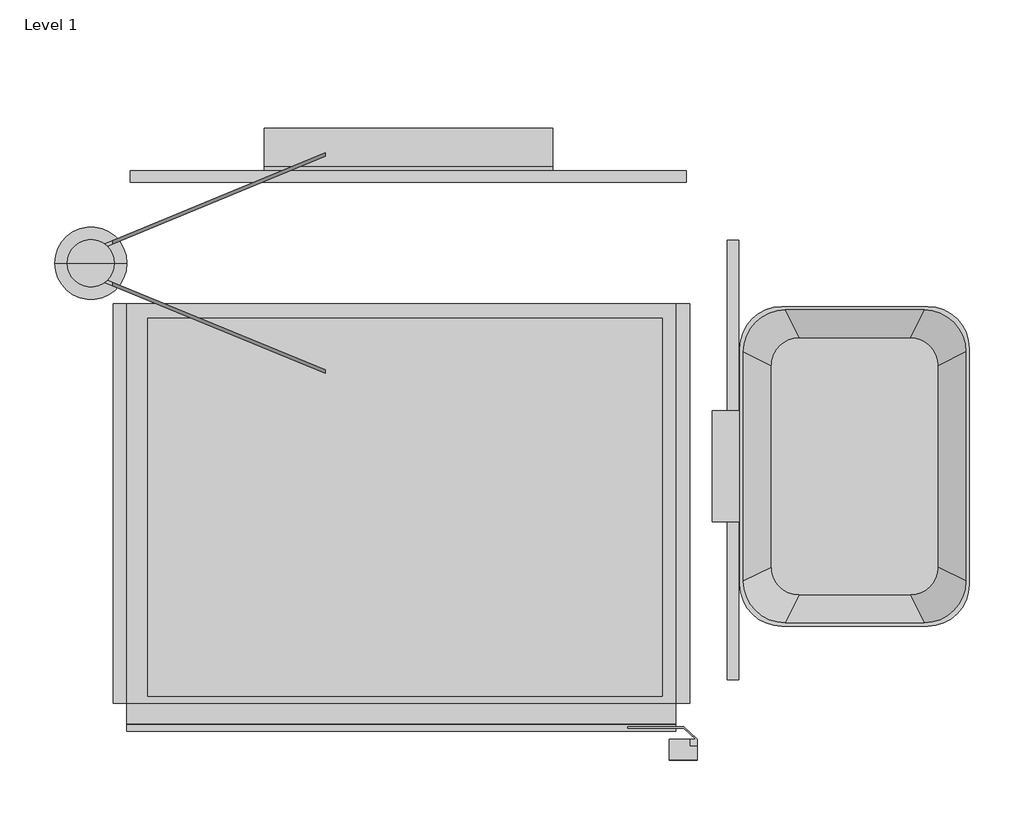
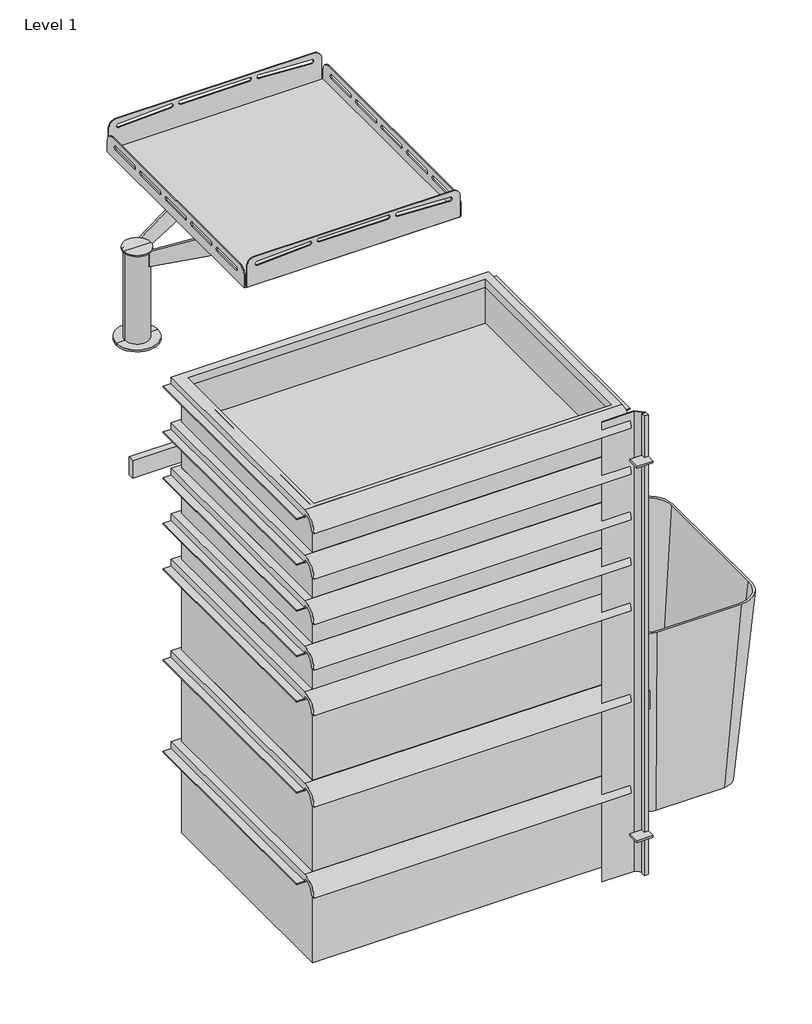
# One storey, incomplete: 13 furniture elements.
"""IFC4 building model written with IfcOpenShell, lengths in millimetres."""

from ifc_helpers import new_model, si_unit, origin, place, context, project, spatial, transform, mapped, element, save
from components import furniture_beea0197, furniture_07f965a8, furniture_5fc54427, furniture_b57faadb, furniture_c484342d, furniture_28e7d052, furniture_4659394c, furniture_b3912cd8, furniture_a84accc4, furniture_5e9628dd, furniture_27459807, corner_shelf_d9e9a92b, furniture_c669a2ec

model = new_model("IFC4")

# Units and contexts
model_context = context("Model", 3, world=origin())
ifc_project = project(units=[si_unit("LENGTHUNIT", "METRE", prefix="MILLI")], contexts=[model_context])

# Site, building, storey
site = spatial("IfcSite", under=ifc_project)
building = spatial("IfcBuilding", under=site)
storey = spatial("IfcBuildingStorey", under=building, Name="Level 1", Elevation=0.0)

# Furniture
placement = place(None, origin())
furniture_shape = furniture_beea0197(model_context)
element("IfcFurniture", 1, ObjectType="HermanMiller_Carts_CT728_WastebasketAndHolder : 12H x 8D x 11W", at=placement, inside=storey, context=model_context, shape_type="MappedRepresentation", body=[
    mapped(furniture_shape, transform((755.1843611, -161.740868, 0.0), x_axis=(1.0, 0.0, 0.0), y_axis=(0.0, 1.0, 0.0), z_axis=(0.0, 0.0, 1.0))),
])
furniture_2_shape = furniture_07f965a8(model_context)
element("IfcFurniture", 2, ObjectType="HermanMiller_Carts_CT501_Drawer : 3\"H x 15\"D x 20\"W", at=placement, inside=storey, context=model_context, shape_type="MappedRepresentation", body=[
    mapped(furniture_2_shape, transform((346.8865568, -354.417648, 0.0), x_axis=(1.0, 0.0, 0.0), y_axis=(0.0, 1.0, 0.0), z_axis=(0.0, 0.0, 1.0))),
])
furniture_3_shape = furniture_5fc54427(model_context)
element("IfcFurniture", 3, ObjectType="HermanMiller_Carts_CT501_Drawer : 3\"H x 15\"D x 20\"W", at=placement, inside=storey, context=model_context, shape_type="MappedRepresentation", body=[
    mapped(furniture_3_shape, transform((346.8865568, -354.417648, 0.0), x_axis=(1.0, 0.0, 0.0), y_axis=(0.0, 1.0, 0.0), z_axis=(0.0, 0.0, 1.0))),
])
furniture_4_shape = furniture_b57faadb(model_context)
element("IfcFurniture", 4, ObjectType="HermanMiller_Carts_CT501_Drawer : 3\"H x 15\"D x 20\"W", at=placement, inside=storey, context=model_context, shape_type="MappedRepresentation", body=[
    mapped(furniture_4_shape, transform((346.8865568, -354.417648, 0.0), x_axis=(1.0, 0.0, 0.0), y_axis=(0.0, 1.0, 0.0), z_axis=(0.0, 0.0, 1.0))),
])
furniture_5_shape = furniture_c484342d(model_context)
element("IfcFurniture", 5, ObjectType="HermanMiller_Carts_CT501_Drawer : 3\"H x 15\"D x 20\"W", at=placement, inside=storey, context=model_context, shape_type="MappedRepresentation", body=[
    mapped(furniture_5_shape, transform((346.8865568, -354.417648, 0.0), x_axis=(1.0, 0.0, 0.0), y_axis=(0.0, 1.0, 0.0), z_axis=(0.0, 0.0, 1.0))),
])
furniture_6_shape = furniture_28e7d052(model_context)
element("IfcFurniture", 6, ObjectType="HermanMiller_Carts_CT501_Drawer : 6\"H x 15\"D x 20\"W", at=placement, inside=storey, context=model_context, shape_type="MappedRepresentation", body=[
    mapped(furniture_6_shape, transform((346.8865568, -354.417648, 0.0), x_axis=(1.0, 0.0, 0.0), y_axis=(0.0, 1.0, 0.0), z_axis=(0.0, 0.0, 1.0))),
])
furniture_7_shape = furniture_4659394c(model_context)
element("IfcFurniture", 7, ObjectType="HermanMiller_Carts_CT501_Drawer : 6\"H x 15\"D x 20\"W", at=placement, inside=storey, context=model_context, shape_type="MappedRepresentation", body=[
    mapped(furniture_7_shape, transform((346.8865568, -354.417648, 0.0), x_axis=(1.0, 0.0, 0.0), y_axis=(0.0, 1.0, 0.0), z_axis=(0.0, 0.0, 1.0))),
])
furniture_8_shape = furniture_b3912cd8(model_context)
element("IfcFurniture", 8, ObjectType="HermanMiller_Carts_CT501_Drawer : 6\"H x 15\"D x 20\"W", at=placement, inside=storey, context=model_context, shape_type="MappedRepresentation", body=[
    mapped(furniture_8_shape, transform((346.8865568, -354.417648, 0.0), x_axis=(1.0, 0.0, 0.0), y_axis=(0.0, 1.0, 0.0), z_axis=(0.0, 0.0, 1.0))),
])
furniture_9_shape = furniture_a84accc4(model_context)
element("IfcFurniture", 9, ObjectType="HermanMiller_Carts_CT778_ElectricalStrip4Outlet : 5H x 3D x 11W", at=placement, inside=storey, context=model_context, shape_type="MappedRepresentation", body=[
    mapped(furniture_9_shape, transform((441.4010253, 0.9637971, 0.0), x_axis=(1.0, 0.0, 0.0), y_axis=(0.0, 1.0, 0.0), z_axis=(0.0, 0.0, 1.0))),
])
furniture_10_shape = furniture_5e9628dd(model_context)
element("IfcFurniture", 10, ObjectType="HermanMiller_Carts_CT782_AccessoryRailSide : 15\"W Right Sect 2", at=placement, inside=storey, context=model_context, shape_type="MappedRepresentation", body=[
    mapped(furniture_10_shape, transform((662.6205796, -301.903148, 0.0), x_axis=(1.0, 0.0, 0.0), y_axis=(0.0, 1.0, 0.0), z_axis=(0.0, 0.0, 1.0))),
])
furniture_11_shape = furniture_27459807(model_context)
element("IfcFurniture", 11, ObjectType="HermanMiller_Carts_CT782_AccessoryRailSide : 20\"W", at=placement, inside=storey, context=model_context, shape_type="MappedRepresentation", body=[
    mapped(furniture_11_shape, transform((366.0718647, -42.912048, 0.0), x_axis=(1.0, 0.0, 0.0), y_axis=(0.0, 1.0, 0.0), z_axis=(0.0, 0.0, 1.0))),
])
corner_shelf_shape = corner_shelf_d9e9a92b(model_context)
element("IfcFurniture", 12, ObjectType="HermanMiller_Carts_CT761_CornerShelf : Corner Shelf", at=placement, inside=storey, context=model_context, shape_type="MappedRepresentation", body=[
    mapped(corner_shelf_shape, transform((308.8029887, -122.2612819, 152.4), x_axis=(1.0, 0.0, 0.0), y_axis=(0.0, 1.0, 0.0), z_axis=(0.0, 0.0, 1.0))),
])
furniture_12_shape = furniture_c669a2ec(model_context)
element("IfcFurniture", 13, ObjectType="HermanMiller_Carts_CT701_BreakawayBar : For 42\"H Cart", at=placement, inside=storey, context=model_context, shape_type="MappedRepresentation", body=[
    mapped(furniture_12_shape, transform((-89.7709433, -576.350148, 0.0), x_axis=(1.0, 0.0, 0.0), y_axis=(0.0, 1.0, 0.0), z_axis=(0.0, 0.0, 1.0))),
])

save(model, "model.ifc")
